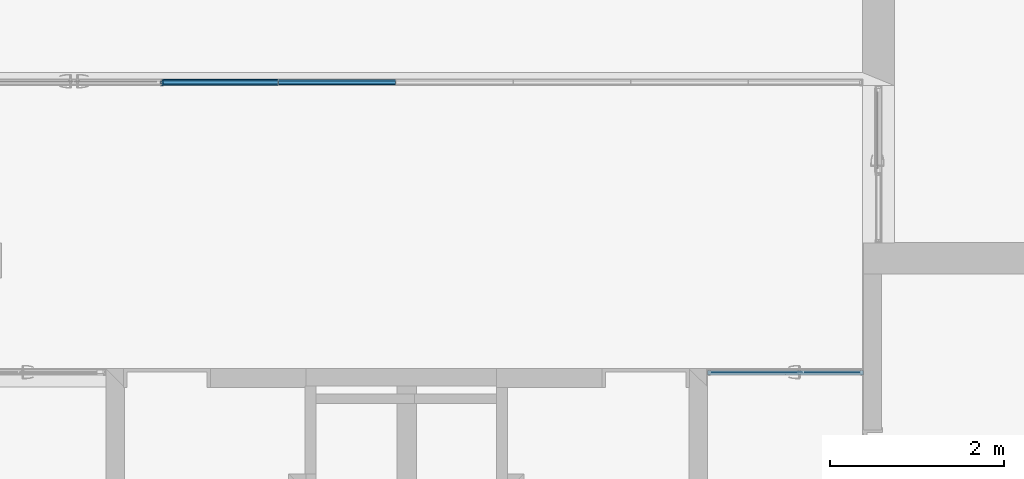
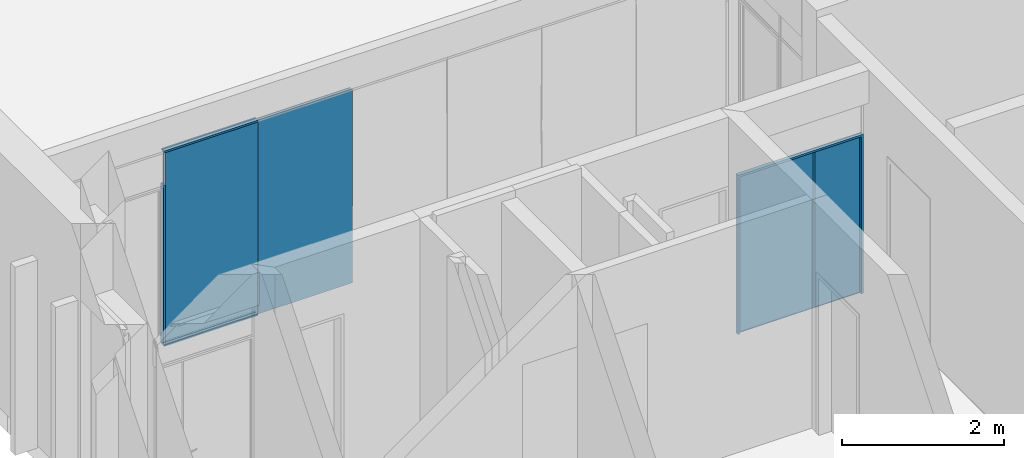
# One storey, part 60 of 89: 11 building element parts, 8 elements without a shape of their own.
"""IFC2X3 building model written with IfcOpenShell, lengths in millimetres."""

from ifc_helpers import new_model, entity, si_unit, converted_unit, derived_unit, money_unit, direction, frame, origin_with_axes, place, context, subcontext, project, spatial, faceted_brep, material, type_object, element, aggregate, save


model = new_model("IFC2X3")

# Units and contexts
model_context = context("Model", 3, precision=0.01, world=origin_with_axes(), true_north=direction((0.0, 1.0)))
body_context = subcontext(model_context, "Body", "Model", "MODEL_VIEW")
ifc_project = project(units=[si_unit("LENGTHUNIT", "METRE", prefix="MILLI"), si_unit("AREAUNIT", "SQUARE_METRE"), si_unit("VOLUMEUNIT", "CUBIC_METRE"), converted_unit("PLANEANGLEUNIT", "DEGREE", entity("IfcPlaneAngleMeasure", 0.0174532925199), si_unit("PLANEANGLEUNIT", "RADIAN"), dimensions=[0, 0, 0, 0, 0, 0, 0]), si_unit("SOLIDANGLEUNIT", "STERADIAN"), money_unit("EUR"), converted_unit("TIMEUNIT", "Year", entity("IfcTimeMeasure", 31556926.0), si_unit("TIMEUNIT", "SECOND"), dimensions=[0, 0, 1, 0, 0, 0, 0]), si_unit("MASSUNIT", "GRAM", prefix="KILO"), si_unit("THERMODYNAMICTEMPERATUREUNIT", "DEGREE_CELSIUS"), si_unit("LUMINOUSINTENSITYUNIT", "LUMEN"), si_unit("ENERGYUNIT", "JOULE", prefix="MEGA"), derived_unit("THERMALCONDUCTANCEUNIT", [(si_unit("POWERUNIT", "WATT"), 1), (si_unit("LENGTHUNIT", "METRE"), -1), (si_unit("THERMODYNAMICTEMPERATUREUNIT", "KELVIN"), -1)]), derived_unit("SPECIFICHEATCAPACITYUNIT", [(si_unit("ENERGYUNIT", "JOULE"), 1), (si_unit("MASSUNIT", "GRAM", prefix="KILO"), -1), (si_unit("THERMODYNAMICTEMPERATUREUNIT", "KELVIN"), -1)]), derived_unit("MASSDENSITYUNIT", [(si_unit("MASSUNIT", "GRAM", prefix="KILO"), 1), (si_unit("VOLUMEUNIT", "CUBIC_METRE"), -1)])], contexts=[model_context])

# Site, building, storey
site_placement = place(None, origin_with_axes())
site = spatial("IfcSite", under=ifc_project, at=site_placement, Name="Puškini 31, Narva", CompositionType="ELEMENT")
building_placement = place(site_placement, origin_with_axes())
building = spatial("IfcBuilding", under=site, at=building_placement, Name="Narva Riigigümnaasium", CompositionType="ELEMENT")
storey_placement = place(building_placement, frame((0.0, 0.0, -3300.0), z_axis=(0.0, 0.0, 1.0), x_axis=(1.0, 0.0, 0.0)))
storey = spatial("IfcBuildingStorey", under=building, at=storey_placement, Name="1.korrus -3.3", CompositionType="ELEMENT", Elevation=-3300.0)

# Curtain wall, plates, building element parts, members
curtain_wall_type = type_object("IfcCurtainWallType", Name="Curtain Wall Type", PredefinedType="NOTDEFINED")
curtain_wall_1_placement = place(storey_placement, frame((40014.000008, 243997.000057, -9.155864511e-06), z_axis=(0.0, 0.0, 1.0), x_axis=(1.0, 0.0, 0.0)))
curtain_wall_1 = element("IfcCurtainWall", 1, at=curtain_wall_1_placement, inside=storey, type_object=curtain_wall_type, Name="G-SKLF-09")
plate_type_1 = type_object("IfcPlateType", Name="Siseklaasfassaad - Klaas 1318 x 505 x 10", PredefinedType="CURTAIN_PANEL")
plate_1_placement = place(curtain_wall_1_placement, frame((0.0, 0.0, 1875.71429143), z_axis=(0.0, 0.0, 1.0), x_axis=(-1.0, 0.0, 0.0)))
plate_1 = element("IfcPlate", 2, at=plate_1_placement, type_object=plate_type_1, Name="G-SKLF-09-klaas", ObjectType="CURTAIN_PANEL")
ifc_material_1 = material(Name="VKR-05_Klaas")
building_element_part_1_placement = place(plate_1_placement, origin_with_axes())
building_element_part_1 = element("IfcBuildingElementPart", 3, at=building_element_part_1_placement, material=ifc_material_1, Name="VKR-05_Klaas", context=body_context, shape_type="Brep", body=[
    faceted_brep([(-762.500010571, 29.0, 1059.28572389), (-762.500010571, 20.0, 1059.28572389), (555.999979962, 20.0, 1059.28572389), (555.999979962, 29.0, 1059.28572389), (-762.500010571, 29.0, -1860.71429959), (-762.500010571, 20.0, -1860.71429959), (572.99999416, 20.0, -1860.71429959), (572.99999416, 20.0, 554.285705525), (555.999979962, 20.0, 554.285705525), (555.999979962, 29.0, 554.285705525), (572.99999416, 29.0, 554.285705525), (572.99999416, 29.0, -1860.71429959)], [[[0, 1, 2, 3]], [[4, 5, 1, 0]], [[1, 5, 6, 7, 8, 2]], [[3, 2, 8, 9]], [[0, 3, 9, 10, 11, 4]], [[11, 6, 5, 4]], [[10, 7, 6, 11]], [[9, 8, 7, 10]]]),
    faceted_brep([(-762.500010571, -20.0, 1059.28572389), (-762.500010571, -29.0, 1059.28572389), (555.999979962, -29.0, 1059.28572389), (555.999979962, -20.0, 1059.28572389), (-762.500010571, -20.0, -1860.71429959), (-762.500010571, -29.0, -1860.71429959), (572.99999416, -29.0, -1860.71429959), (572.99999416, -29.0, 554.285705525), (555.999979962, -29.0, 554.285705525), (555.999979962, -20.0, 554.285705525), (572.99999416, -20.0, 554.285705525), (572.99999416, -20.0, -1860.71429959)], [[[0, 1, 2, 3]], [[4, 5, 1, 0]], [[1, 5, 6, 7, 8, 2]], [[3, 2, 8, 9]], [[0, 3, 9, 10, 11, 4]], [[11, 6, 5, 4]], [[10, 7, 6, 11]], [[9, 8, 7, 10]]]),
])
ifc_material_2 = material(Name="VKR-06_Õhkvahe")
building_element_part_2_placement = place(plate_1_placement, origin_with_axes())
building_element_part_2 = element("IfcBuildingElementPart", 4, at=building_element_part_2_placement, material=ifc_material_2, Name="VKR-06_Õhkvahe", context=body_context, shape_type="Brep", body=[
    faceted_brep([(-762.500010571, 20.0, 1059.28572389), (-762.500010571, -20.0, 1059.28572389), (555.999979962, -20.0, 1059.28572389), (555.999979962, 20.0, 1059.28572389), (-762.500010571, 20.0, -1860.71429959), (-762.500010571, -20.0, -1860.71429959), (572.99999416, -20.0, -1860.71429959), (572.99999416, -20.0, 554.285705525), (555.999979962, -20.0, 554.285705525), (555.999979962, 20.0, 554.285705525), (572.99999416, 20.0, 554.285705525), (572.99999416, 20.0, -1860.71429959)], [[[0, 1, 2, 3]], [[4, 5, 1, 0]], [[1, 5, 6, 7, 8, 2]], [[3, 2, 8, 9]], [[0, 3, 9, 10, 11, 4]], [[11, 6, 5, 4]], [[10, 7, 6, 11]], [[9, 8, 7, 10]]]),
])
aggregate(plate_1, [building_element_part_1, building_element_part_2])
plate_type_2 = type_object("IfcPlateType", Name="Siseklaasfassaad - Klaas 1347 x 535 x 10", PredefinedType="CURTAIN_PANEL")
plate_2_placement = place(curtain_wall_1_placement, frame((1438.99999221, 0.0, 1783.33333811), z_axis=(0.0, 0.0, 1.0), x_axis=(-1.0, 0.0, 0.0)))
plate_2 = element("IfcPlate", 5, at=plate_2_placement, type_object=plate_type_2, Name="G-SKLF-09-klaas", ObjectType="CURTAIN_PANEL")
building_element_part_3_placement = place(plate_2_placement, origin_with_axes())
building_element_part_3 = element("IfcBuildingElementPart", 6, at=building_element_part_3_placement, material=ifc_material_1, Name="VKR-05_Klaas", context=body_context, shape_type="Brep", body=[
    faceted_brep([(-673.500018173, 29.0, 1151.66667721), (-673.500018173, 20.0, 1151.66667721), (673.500005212, 20.0, 1151.66667721), (673.500005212, 29.0, 1151.66667721), (-673.500018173, 29.0, -1768.33334626), (-673.500018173, 20.0, -1768.33334626), (673.500005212, 20.0, -1768.33334626), (673.500005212, 29.0, -1768.33334626)], [[[0, 1, 2, 3]], [[4, 5, 1, 0]], [[1, 5, 6, 2]], [[3, 2, 6, 7]], [[0, 3, 7, 4]], [[7, 6, 5, 4]]]),
    faceted_brep([(-673.500018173, -20.0, 1151.66667721), (-673.500018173, -29.0, 1151.66667721), (673.500005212, -29.0, 1151.66667721), (673.500005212, -20.0, 1151.66667721), (-673.500018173, -20.0, -1768.33334626), (-673.500018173, -29.0, -1768.33334626), (673.500005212, -29.0, -1768.33334626), (673.500005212, -20.0, -1768.33334626)], [[[0, 1, 2, 3]], [[4, 5, 1, 0]], [[1, 5, 6, 2]], [[3, 2, 6, 7]], [[0, 3, 7, 4]], [[7, 6, 5, 4]]]),
])
building_element_part_4_placement = place(plate_2_placement, origin_with_axes())
building_element_part_4 = element("IfcBuildingElementPart", 7, at=building_element_part_4_placement, material=ifc_material_2, Name="VKR-06_Õhkvahe", context=body_context, shape_type="Brep", body=[
    faceted_brep([(-673.500018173, 20.0, 1151.66667721), (-673.500018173, -20.0, 1151.66667721), (673.500005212, -20.0, 1151.66667721), (673.500005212, 20.0, 1151.66667721), (-673.500018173, 20.0, -1768.33334626), (-673.500018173, -20.0, -1768.33334626), (673.500005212, -20.0, -1768.33334626), (673.500005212, 20.0, -1768.33334626)], [[[0, 1, 2, 3]], [[4, 5, 1, 0]], [[1, 5, 6, 2]], [[3, 2, 6, 7]], [[0, 3, 7, 4]], [[7, 6, 5, 4]]]),
])
aggregate(plate_2, [building_element_part_3, building_element_part_4])
member_type_1 = type_object("IfcMemberType", Name="30 x -83", PredefinedType="MULLION")
member_1_placement = place(curtain_wall_1_placement, frame((-572.99999416, 0.0, 2950.00000716), z_axis=(1.0, 0.0, 0.0), x_axis=(0.0, 0.0, 1.0)))
member_1 = element("IfcMember", 8, at=member_1_placement, type_object=member_type_1, Name="G-SKLF-52-raam", ObjectType="MULLION")
ifc_material_3 = material(Name="Klaasvill")
building_element_part_5_placement = place(member_1_placement, origin_with_axes())
building_element_part_5 = element("IfcBuildingElementPart", 9, at=building_element_part_5_placement, material=ifc_material_3, Name="Klaasvill", context=body_context, shape_type="Brep", body=[
    faceted_brep([(-7.49999990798, -20.000000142, 0.0), (-13.8499999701, -20.000000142, 0.0), (-13.8499999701, -20.000000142, 1336.99998637), (-7.49999990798, -20.000000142, 1336.99998637), (-7.49999990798, -34.0161444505, 0.0), (-13.8499999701, -34.0161444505, 0.0), (-13.8499999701, -34.0161444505, 1336.99998637), (-7.49999990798, -34.0161444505, 1336.99998637)], [[[0, 1, 2, 3]], [[0, 4, 5, 1]], [[1, 5, 6, 2]], [[3, 2, 6, 7]], [[4, 0, 3, 7]], [[5, 4, 7, 6]]]),
    faceted_brep([(-24.987414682, -34.0161444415, 0.0), (-25.004489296, -32.0307503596, 0.0), (-25.004489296, -32.0307503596, 1336.99998637), (-24.987414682, -34.0161444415, 1336.99998637), (-28.5126239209, -34.0161444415, 0.0), (-28.7655837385, -33.0385325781, 0.0), (-28.4955493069, -32.0307503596, 0.0), (-27.75780152, -31.2930025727, 0.0), (-26.7500193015, -31.0229681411, 0.0), (-25.742237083, -31.2930025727, 0.0), (-25.742237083, -31.2930025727, 1336.99998637), (-26.7500193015, -31.0229681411, 1336.99998637), (-27.75780152, -31.2930025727, 1336.99998637), (-28.4955493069, -32.0307503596, 1336.99998637), (-28.7655837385, -33.0385325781, 1336.99998637), (-28.5126239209, -34.0161444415, 1336.99998637)], [[[0, 1, 2, 3]], [[0, 4, 5, 6, 7, 8, 9, 1]], [[1, 9, 10, 2]], [[3, 2, 10, 11, 12, 13, 14, 15]], [[4, 0, 3, 15]], [[5, 4, 15, 14]], [[6, 5, 14, 13]], [[7, 6, 13, 12]], [[8, 7, 12, 11]], [[9, 8, 11, 10]]]),
    faceted_brep([(-7.49999990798, 19.9999997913, 0.0), (-7.49999990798, 34.0161445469, 0.0), (-7.49999990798, 34.0161445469, 1336.99998637), (-7.49999990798, 19.9999997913, 1336.99998637), (-13.8499999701, 19.9999997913, 0.0), (-13.8499999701, 34.0161445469, 0.0), (-13.8499999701, 34.0161445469, 1336.99998637), (-13.8499999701, 19.9999997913, 1336.99998637)], [[[0, 1, 2, 3]], [[0, 4, 5, 1]], [[1, 5, 6, 2]], [[3, 2, 6, 7]], [[4, 0, 3, 7]], [[5, 4, 7, 6]]]),
    faceted_brep([(-25.004489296, 32.0307503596, 0.0), (-24.987414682, 34.0161444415, 0.0), (-24.987414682, 34.0161444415, 1336.99998637), (-25.004489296, 32.0307503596, 1336.99998637), (-25.742237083, 31.2930025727, 0.0), (-26.7500193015, 31.0229681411, 0.0), (-27.75780152, 31.2930025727, 0.0), (-28.4955493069, 32.0307503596, 0.0), (-28.7655837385, 33.0385325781, 0.0), (-28.5126239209, 34.0161444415, 0.0), (-28.5126239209, 34.0161444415, 1336.99998637), (-28.7655837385, 33.0385325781, 1336.99998637), (-28.4955493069, 32.0307503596, 1336.99998637), (-27.75780152, 31.2930025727, 1336.99998637), (-26.7500193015, 31.0229681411, 1336.99998637), (-25.742237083, 31.2930025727, 1336.99998637)], [[[0, 1, 2, 3]], [[0, 4, 5, 6, 7, 8, 9, 1]], [[1, 9, 10, 2]], [[3, 2, 10, 11, 12, 13, 14, 15]], [[4, 0, 3, 15]], [[5, 4, 15, 14]], [[6, 5, 14, 13]], [[7, 6, 13, 12]], [[8, 7, 12, 11]], [[9, 8, 11, 10]]]),
])
ifc_material_4 = material(Name="Teras RAL7012")
building_element_part_6_placement = place(member_1_placement, origin_with_axes())
building_element_part_6 = element("IfcBuildingElementPart", 10, at=building_element_part_6_placement, material=ifc_material_4, Name="Teras RAL7012", context=body_context, shape_type="Brep", body=[
    faceted_brep([(0.0, 17.0000000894, 0.0), (-29.5999996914, 17.0000000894, 0.0), (-29.5999996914, 17.0000000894, 1336.99998637), (0.0, 17.0000000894, 1336.99998637), (0.0, -17.0000000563, 0.0), (-29.5999996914, -17.0000000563, 0.0), (-1.9999999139, -15.0000001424, 0.0), (-1.9999999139, 15.0000001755, 0.0), (-18.7999996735, 15.0000001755, 0.0), (-18.7999996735, -15.0000001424, 0.0), (-29.5999996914, -17.0000000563, 1336.99998637), (0.0, -17.0000000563, 1336.99998637), (-1.9999999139, -15.0000001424, 1336.99998637), (-18.7999996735, -15.0000001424, 1336.99998637), (-18.7999996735, 15.0000001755, 1336.99998637), (-1.9999999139, 15.0000001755, 1336.99998637)], [[[0, 1, 2, 3]], [[0, 4, 5, 1], [6, 7, 8, 9]], [[1, 5, 10, 2]], [[3, 2, 10, 11], [12, 13, 14, 15]], [[4, 0, 3, 11]], [[5, 4, 11, 10]], [[7, 6, 12, 15]], [[8, 7, 15, 14]], [[9, 8, 14, 13]], [[6, 9, 13, 12]]]),
    faceted_brep([(0.0, -17.0, 0.0), (-29.5999996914, -17.0000000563, 0.0), (-29.5999996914, -17.0000000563, 1336.99998637), (0.0, -17.0, 1336.99998637), (0.0, -37.0, 0.0), (-30.0000193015, -37.0, 0.0), (-30.0000193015, -34.0161444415, 0.0), (-28.5126239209, -34.0161444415, 0.0), (-24.987414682, -34.0161444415, 0.0), (-13.8499999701, -34.0161444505, 0.0), (-7.49999999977, -34.0161444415, 0.0), (-7.49999999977, -20.0, 0.0), (-13.8499999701, -20.000000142, 0.0), (-30.0000193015, -20.0, 0.0), (-30.0000193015, -17.0, 0.0), (-30.0000193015, -17.0, 1336.99998637), (-30.0000193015, -20.0, 1336.99998637), (-13.8499999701, -20.000000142, 1336.99998637), (-7.49999999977, -20.0, 1336.99998637), (-7.49999999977, -34.0161444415, 1336.99998637), (-13.8499999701, -34.0161444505, 1336.99998637), (-24.987414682, -34.0161444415, 1336.99998637), (-28.5126239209, -34.0161444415, 1336.99998637), (-30.0000193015, -34.0161444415, 1336.99998637), (-30.0000193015, -37.0, 1336.99998637), (0.0, -37.0, 1336.99998637)], [[[0, 1, 2, 3]], [[0, 4, 5, 6, 7, 8, 9, 10, 11, 12, 13, 14, 1]], [[1, 14, 15, 2]], [[3, 2, 15, 16, 17, 18, 19, 20, 21, 22, 23, 24, 25]], [[4, 0, 3, 25]], [[5, 4, 25, 24]], [[6, 5, 24, 23]], [[7, 6, 23, 22]], [[8, 7, 22, 21]], [[9, 8, 21, 20]], [[10, 9, 20, 19]], [[11, 10, 19, 18]], [[12, 11, 18, 17]], [[13, 12, 17, 16]], [[14, 13, 16, 15]]]),
    faceted_brep([(0.0, 17.0, 0.0), (0.0, 37.0, 0.0), (0.0, 37.0, 1336.99998637), (0.0, 17.0, 1336.99998637), (-29.5999996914, 17.0000000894, 0.0), (-30.0000193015, 17.0, 0.0), (-30.0000193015, 20.0, 0.0), (-13.8499999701, 19.9999997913, 0.0), (-7.49999999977, 20.0, 0.0), (-7.49999999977, 34.0161444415, 0.0), (-13.8499999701, 34.0161445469, 0.0), (-24.987414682, 34.0161444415, 0.0), (-28.5126239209, 34.0161444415, 0.0), (-30.0000193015, 34.0161444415, 0.0), (-30.0000193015, 37.0, 0.0), (-30.0000193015, 37.0, 1336.99998637), (-30.0000193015, 34.0161444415, 1336.99998637), (-28.5126239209, 34.0161444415, 1336.99998637), (-24.987414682, 34.0161444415, 1336.99998637), (-13.8499999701, 34.0161445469, 1336.99998637), (-7.49999999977, 34.0161444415, 1336.99998637), (-7.49999999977, 20.0, 1336.99998637), (-13.8499999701, 19.9999997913, 1336.99998637), (-30.0000193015, 20.0, 1336.99998637), (-30.0000193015, 17.0, 1336.99998637), (-29.5999996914, 17.0000000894, 1336.99998637)], [[[0, 1, 2, 3]], [[0, 4, 5, 6, 7, 8, 9, 10, 11, 12, 13, 14, 1]], [[1, 14, 15, 2]], [[3, 2, 15, 16, 17, 18, 19, 20, 21, 22, 23, 24, 25]], [[4, 0, 3, 25]], [[5, 4, 25, 24]], [[6, 5, 24, 23]], [[7, 6, 23, 22]], [[8, 7, 22, 21]], [[9, 8, 21, 20]], [[10, 9, 20, 19]], [[11, 10, 19, 18]], [[12, 11, 18, 17]], [[13, 12, 17, 16]], [[14, 13, 16, 15]]]),
])
aggregate(member_1, [building_element_part_5, building_element_part_6])
member_2_placement = place(curtain_wall_1_placement, frame((-572.99999416, 0.0, 0.0), z_axis=(1.0, 0.0, 0.0), x_axis=(0.0, 0.0, 1.0)))
member_2 = element("IfcMember", 11, at=member_2_placement, type_object=member_type_1, Name="G-SKLF-39-raam", ObjectType="MULLION")
building_element_part_7_placement = place(member_2_placement, origin_with_axes())
building_element_part_7 = element("IfcBuildingElementPart", 12, at=building_element_part_7_placement, material=ifc_material_3, Name="Klaasvill", context=body_context, shape_type="Brep", body=[
    faceted_brep([(7.49999990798, -20.000000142, 0.0), (7.49999990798, -20.000000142, 1336.99998637), (13.8499999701, -20.000000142, 1336.99998637), (13.8499999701, -20.000000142, 0.0), (7.49999990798, -34.0161444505, 0.0), (7.49999990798, -34.0161444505, 1336.99998637), (13.8499999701, -34.0161444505, 1336.99998637), (13.8499999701, -34.0161444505, 0.0)], [[[0, 1, 2, 3]], [[4, 5, 1, 0]], [[1, 5, 6, 2]], [[3, 2, 6, 7]], [[0, 3, 7, 4]], [[7, 6, 5, 4]]]),
    faceted_brep([(24.987414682, -34.0161444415, 0.0), (24.987414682, -34.0161444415, 1336.99998637), (25.004489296, -32.0307503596, 1336.99998637), (25.004489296, -32.0307503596, 0.0), (28.5126239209, -34.0161444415, 0.0), (28.5126239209, -34.0161444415, 1336.99998637), (28.7655837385, -33.0385325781, 1336.99998637), (28.4955493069, -32.0307503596, 1336.99998637), (27.75780152, -31.2930025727, 1336.99998637), (26.7500193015, -31.0229681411, 1336.99998637), (25.742237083, -31.2930025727, 1336.99998637), (25.742237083, -31.2930025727, 0.0), (26.7500193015, -31.0229681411, 0.0), (27.75780152, -31.2930025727, 0.0), (28.4955493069, -32.0307503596, 0.0), (28.7655837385, -33.0385325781, 0.0)], [[[0, 1, 2, 3]], [[4, 5, 1, 0]], [[1, 5, 6, 7, 8, 9, 10, 2]], [[3, 2, 10, 11]], [[0, 3, 11, 12, 13, 14, 15, 4]], [[15, 6, 5, 4]], [[14, 7, 6, 15]], [[13, 8, 7, 14]], [[12, 9, 8, 13]], [[11, 10, 9, 12]]]),
    faceted_brep([(7.49999990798, 19.9999997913, 0.0), (7.49999990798, 19.9999997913, 1336.99998637), (7.49999990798, 34.0161445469, 1336.99998637), (7.49999990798, 34.0161445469, 0.0), (13.8499999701, 19.9999997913, 0.0), (13.8499999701, 19.9999997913, 1336.99998637), (13.8499999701, 34.0161445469, 1336.99998637), (13.8499999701, 34.0161445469, 0.0)], [[[0, 1, 2, 3]], [[4, 5, 1, 0]], [[1, 5, 6, 2]], [[3, 2, 6, 7]], [[0, 3, 7, 4]], [[7, 6, 5, 4]]]),
    faceted_brep([(25.004489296, 32.0307503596, 0.0), (25.004489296, 32.0307503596, 1336.99998637), (24.987414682, 34.0161444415, 1336.99998637), (24.987414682, 34.0161444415, 0.0), (25.742237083, 31.2930025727, 0.0), (25.742237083, 31.2930025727, 1336.99998637), (26.7500193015, 31.0229681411, 1336.99998637), (27.75780152, 31.2930025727, 1336.99998637), (28.4955493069, 32.0307503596, 1336.99998637), (28.7655837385, 33.0385325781, 1336.99998637), (28.5126239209, 34.0161444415, 1336.99998637), (28.5126239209, 34.0161444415, 0.0), (28.7655837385, 33.0385325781, 0.0), (28.4955493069, 32.0307503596, 0.0), (27.75780152, 31.2930025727, 0.0), (26.7500193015, 31.0229681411, 0.0)], [[[0, 1, 2, 3]], [[4, 5, 1, 0]], [[1, 5, 6, 7, 8, 9, 10, 2]], [[3, 2, 10, 11]], [[0, 3, 11, 12, 13, 14, 15, 4]], [[15, 6, 5, 4]], [[14, 7, 6, 15]], [[13, 8, 7, 14]], [[12, 9, 8, 13]], [[11, 10, 9, 12]]]),
])
building_element_part_8_placement = place(member_2_placement, origin_with_axes())
building_element_part_8 = element("IfcBuildingElementPart", 13, at=building_element_part_8_placement, material=ifc_material_4, Name="Teras RAL7012", context=body_context, shape_type="Brep", body=[
    faceted_brep([(0.0, 17.0000000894, 0.0), (0.0, 17.0000000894, 1336.99998637), (29.5999996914, 17.0000000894, 1336.99998637), (29.5999996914, 17.0000000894, 0.0), (0.0, -17.0000000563, 0.0), (0.0, -17.0000000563, 1336.99998637), (29.5999996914, -17.0000000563, 1336.99998637), (1.9999999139, -15.0000001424, 1336.99998637), (1.9999999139, 15.0000001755, 1336.99998637), (18.7999996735, 15.0000001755, 1336.99998637), (18.7999996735, -15.0000001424, 1336.99998637), (29.5999996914, -17.0000000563, 0.0), (1.9999999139, -15.0000001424, 0.0), (18.7999996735, -15.0000001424, 0.0), (18.7999996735, 15.0000001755, 0.0), (1.9999999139, 15.0000001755, 0.0)], [[[0, 1, 2, 3]], [[4, 5, 1, 0]], [[1, 5, 6, 2], [7, 8, 9, 10]], [[3, 2, 6, 11]], [[0, 3, 11, 4], [12, 13, 14, 15]], [[11, 6, 5, 4]], [[15, 8, 7, 12]], [[14, 9, 8, 15]], [[13, 10, 9, 14]], [[12, 7, 10, 13]]]),
    faceted_brep([(0.0, -17.0, 0.0), (0.0, -17.0, 1336.99998637), (29.5999996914, -17.0000000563, 1336.99998637), (29.5999996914, -17.0000000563, 0.0), (0.0, -37.0, 0.0), (0.0, -37.0, 1336.99998637), (30.0000193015, -37.0, 1336.99998637), (30.0000193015, -34.0161444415, 1336.99998637), (28.5126239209, -34.0161444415, 1336.99998637), (24.987414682, -34.0161444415, 1336.99998637), (13.8499999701, -34.0161444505, 1336.99998637), (7.49999999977, -34.0161444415, 1336.99998637), (7.49999999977, -20.0, 1336.99998637), (13.8499999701, -20.000000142, 1336.99998637), (30.0000193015, -20.0, 1336.99998637), (30.0000193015, -17.0, 1336.99998637), (30.0000193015, -17.0, 0.0), (30.0000193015, -20.0, 0.0), (13.8499999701, -20.000000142, 0.0), (7.49999999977, -20.0, 0.0), (7.49999999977, -34.0161444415, 0.0), (13.8499999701, -34.0161444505, 0.0), (24.987414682, -34.0161444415, 0.0), (28.5126239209, -34.0161444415, 0.0), (30.0000193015, -34.0161444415, 0.0), (30.0000193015, -37.0, 0.0)], [[[0, 1, 2, 3]], [[4, 5, 1, 0]], [[1, 5, 6, 7, 8, 9, 10, 11, 12, 13, 14, 15, 2]], [[3, 2, 15, 16]], [[0, 3, 16, 17, 18, 19, 20, 21, 22, 23, 24, 25, 4]], [[25, 6, 5, 4]], [[24, 7, 6, 25]], [[23, 8, 7, 24]], [[22, 9, 8, 23]], [[21, 10, 9, 22]], [[20, 11, 10, 21]], [[19, 12, 11, 20]], [[18, 13, 12, 19]], [[17, 14, 13, 18]], [[16, 15, 14, 17]]]),
    faceted_brep([(0.0, 17.0, 0.0), (0.0, 17.0, 1336.99998637), (0.0, 37.0, 1336.99998637), (0.0, 37.0, 0.0), (29.5999996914, 17.0000000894, 0.0), (29.5999996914, 17.0000000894, 1336.99998637), (30.0000193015, 17.0, 1336.99998637), (30.0000193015, 20.0, 1336.99998637), (13.8499999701, 19.9999997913, 1336.99998637), (7.49999999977, 20.0, 1336.99998637), (7.49999999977, 34.0161444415, 1336.99998637), (13.8499999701, 34.0161445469, 1336.99998637), (24.987414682, 34.0161444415, 1336.99998637), (28.5126239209, 34.0161444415, 1336.99998637), (30.0000193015, 34.0161444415, 1336.99998637), (30.0000193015, 37.0, 1336.99998637), (30.0000193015, 37.0, 0.0), (30.0000193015, 34.0161444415, 0.0), (28.5126239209, 34.0161444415, 0.0), (24.987414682, 34.0161444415, 0.0), (13.8499999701, 34.0161445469, 0.0), (7.49999999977, 34.0161444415, 0.0), (7.49999999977, 20.0, 0.0), (13.8499999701, 19.9999997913, 0.0), (30.0000193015, 20.0, 0.0), (30.0000193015, 17.0, 0.0)], [[[0, 1, 2, 3]], [[4, 5, 1, 0]], [[1, 5, 6, 7, 8, 9, 10, 11, 12, 13, 14, 15, 2]], [[3, 2, 15, 16]], [[0, 3, 16, 17, 18, 19, 20, 21, 22, 23, 24, 25, 4]], [[25, 6, 5, 4]], [[24, 7, 6, 25]], [[23, 8, 7, 24]], [[22, 9, 8, 23]], [[21, 10, 9, 22]], [[20, 11, 10, 21]], [[19, 12, 11, 20]], [[18, 13, 12, 19]], [[17, 14, 13, 18]], [[16, 15, 14, 17]]]),
])
aggregate(member_2, [building_element_part_7, building_element_part_8])
member_type_2 = type_object("IfcMemberType", Name="30 x 37", PredefinedType="MULLION")
member_3_placement = place(curtain_wall_1_placement, frame((-586.000007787, 0.0, 0.0), z_axis=(0.0, 0.0, 1.0), x_axis=(-1.0, 0.0, 0.0)))
member_3 = element("IfcMember", 14, at=member_3_placement, type_object=member_type_2, Name="G-SKLF-09-raam", ObjectType="MULLION")
aggregate(curtain_wall_1, [member_1, member_2, member_3, plate_1, plate_2])
building_element_part_9_placement = place(member_3_placement, origin_with_axes())
building_element_part_9 = element("IfcBuildingElementPart", 15, at=building_element_part_9_placement, material=ifc_material_4, Name="Teras RAL7012", context=body_context, shape_type="Brep", body=[
    faceted_brep([(-29.6000001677, 17.0000000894, 20.0), (-29.6000001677, -17.0000000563, 20.0), (-29.6000001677, -17.0000000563, 2430.00002646), (-29.6000001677, 17.0000000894, 2430.00002646), (3.28334692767e-07, 17.0000000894, 20.0), (3.28334692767e-07, -17.0000000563, 20.0), (-1.99999958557, 15.0000001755, 20.0), (-18.8000001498, 15.0000001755, 20.0), (-18.8000001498, -15.0000001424, 20.0), (-1.99999958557, -15.0000001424, 20.0), (3.28334692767e-07, -17.0000000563, 2430.00002646), (3.28334692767e-07, 17.0000000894, 2430.00002646), (-1.99999958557, 15.0000001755, 2430.00002646), (-1.99999958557, -15.0000001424, 2430.00002646), (-18.8000001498, -15.0000001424, 2430.00002646), (-18.8000001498, 15.0000001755, 2430.00002646)], [[[0, 1, 2, 3]], [[1, 0, 4, 5], [6, 7, 8, 9]], [[1, 5, 10, 2]], [[2, 10, 11, 3], [12, 13, 14, 15]], [[4, 0, 3, 11]], [[5, 4, 11, 10]], [[7, 6, 12, 15]], [[8, 7, 15, 14]], [[9, 8, 14, 13]], [[6, 9, 13, 12]]]),
    faceted_brep([(0.0, -37.0, 20.0), (0.0, -17.0, 20.0), (0.0, -17.0, 2430.00002646), (0.0, -37.0, 2430.00002646), (-30.0000193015, -37.0, 20.0), (-30.0000193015, -34.0161444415, 20.0), (-28.5126239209, -34.0161444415, 20.0), (-24.987414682, -34.0161444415, 20.0), (-13.8499999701, -34.0161444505, 20.0), (-7.49999999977, -34.0161444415, 20.0), (-7.49999999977, -20.0, 20.0), (-13.8499999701, -20.000000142, 20.0), (-30.0000193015, -20.0, 20.0), (-30.0000193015, -17.0, 20.0), (-29.6000001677, -17.0000000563, 20.0), (-29.6000001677, -17.0000000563, 2430.00002646), (-30.0000193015, -17.0, 2430.00002646), (-30.0000193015, -20.0, 2430.00002646), (-13.8499999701, -20.000000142, 2430.00002646), (-7.49999999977, -20.0, 2430.00002646), (-7.49999999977, -34.0161444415, 2430.00002646), (-13.8499999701, -34.0161444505, 2430.00002646), (-24.987414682, -34.0161444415, 2430.00002646), (-28.5126239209, -34.0161444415, 2430.00002646), (-30.0000193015, -34.0161444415, 2430.00002646), (-30.0000193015, -37.0, 2430.00002646)], [[[0, 1, 2, 3]], [[1, 0, 4, 5, 6, 7, 8, 9, 10, 11, 12, 13, 14]], [[1, 14, 15, 2]], [[2, 15, 16, 17, 18, 19, 20, 21, 22, 23, 24, 25, 3]], [[4, 0, 3, 25]], [[5, 4, 25, 24]], [[6, 5, 24, 23]], [[7, 6, 23, 22]], [[8, 7, 22, 21]], [[9, 8, 21, 20]], [[10, 9, 20, 19]], [[11, 10, 19, 18]], [[12, 11, 18, 17]], [[13, 12, 17, 16]], [[14, 13, 16, 15]]]),
    faceted_brep([(-29.6000001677, 17.0000000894, 20.0), (0.0, 17.0, 20.0), (0.0, 17.0, 2430.00002646), (-29.6000001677, 17.0000000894, 2430.00002646), (-30.0000193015, 17.0, 20.0), (-30.0000193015, 20.0, 20.0), (-13.8499999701, 19.9999997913, 20.0), (-7.49999999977, 20.0, 20.0), (-7.49999999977, 34.0161444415, 20.0), (-13.8499999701, 34.0161445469, 20.0), (-24.987414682, 34.0161444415, 20.0), (-28.5126239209, 34.0161444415, 20.0), (-30.0000193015, 34.0161444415, 20.0), (-30.0000193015, 37.0, 20.0), (0.0, 37.0, 20.0), (0.0, 37.0, 2430.00002646), (-30.0000193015, 37.0, 2430.00002646), (-30.0000193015, 34.0161444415, 2430.00002646), (-28.5126239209, 34.0161444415, 2430.00002646), (-24.987414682, 34.0161444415, 2430.00002646), (-13.8499999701, 34.0161445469, 2430.00002646), (-7.49999999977, 34.0161444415, 2430.00002646), (-7.49999999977, 20.0, 2430.00002646), (-13.8499999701, 19.9999997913, 2430.00002646), (-30.0000193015, 20.0, 2430.00002646), (-30.0000193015, 17.0, 2430.00002646)], [[[0, 1, 2, 3]], [[1, 0, 4, 5, 6, 7, 8, 9, 10, 11, 12, 13, 14]], [[1, 14, 15, 2]], [[2, 15, 16, 17, 18, 19, 20, 21, 22, 23, 24, 25, 3]], [[4, 0, 3, 25]], [[5, 4, 25, 24]], [[6, 5, 24, 23]], [[7, 6, 23, 22]], [[8, 7, 22, 21]], [[9, 8, 21, 20]], [[10, 9, 20, 19]], [[11, 10, 19, 18]], [[12, 11, 18, 17]], [[13, 12, 17, 16]], [[14, 13, 16, 15]]]),
])
aggregate(member_3, [building_element_part_9])

# Curtain wall, door, building element parts
curtain_wall_2_placement = place(storey_placement, frame((46605.0000001, 240678.000001, 0.0), z_axis=(0.0, 0.0, 1.0), x_axis=(1.0, 0.0, 0.0)))
curtain_wall_2 = element("IfcCurtainWall", 16, at=curtain_wall_2_placement, inside=storey, type_object=curtain_wall_type, Name="G-SKLF-57")
door_style = type_object("IfcDoorStyle", Name="895 x 2385 x -5", ConstructionType="NOTDEFINED", OperationType="NOTDEFINED", ParameterTakesPrecedence=False, Sizeable=False)
door_placement = place(curtain_wall_2_placement, frame((0.0, 0.0, 1200.0), z_axis=(0.0, 0.0, 1.0), x_axis=(1.0, 0.0, 0.0)))
door = element("IfcDoor", 17, at=door_placement, type_object=door_style, Name="G-SKLF-58-U1", ObjectType="DOOR")
aggregate(curtain_wall_2, [door])
ifc_material_5 = material(Name="ET-04_Alumiinium")
building_element_part_10_placement = place(door_placement, origin_with_axes())
building_element_part_10 = element("IfcBuildingElementPart", 18, at=building_element_part_10_placement, material=ifc_material_5, Name="ET-04_Alumiinium", context=body_context, shape_type="Brep", body=[
    faceted_brep([(-895.0, -2.5, -1200.0), (-895.0, -2.5, 1200.0), (-895.0, 11.5, 1200.0), (-895.0, 11.5, -1200.0), (-857.0, -2.5, -1200.0), (-857.0, -2.5, 1162.0), (-857.0, 11.5, 1162.0), (-857.0, 11.5, -1200.0)], [[[0, 1, 2, 3]], [[0, 4, 5, 1]], [[1, 5, 6, 2]], [[3, 2, 6, 7]], [[4, 0, 3, 7]], [[5, 4, 7, 6]]]),
    faceted_brep([(895.0, -2.5, 1200.0), (857.0, -2.5, 1162.0), (857.0, 11.5, 1162.0), (895.0, 11.5, 1200.0), (-895.0, -2.5, 1200.0), (-857.0, -2.5, 1162.0), (-857.0, 11.5, 1162.0), (-895.0, 11.5, 1200.0)], [[[0, 1, 2, 3]], [[0, 4, 5, 1]], [[1, 5, 6, 2]], [[3, 2, 6, 7]], [[4, 0, 3, 7]], [[5, 4, 7, 6]]]),
    faceted_brep([(895.0, -2.5, -1200.0), (857.0, -2.5, -1200.0), (857.0, 11.5, -1200.0), (895.0, 11.5, -1200.0), (895.0, -2.5, 1200.0), (857.0, -2.5, 1162.0), (857.0, 11.5, 1162.0), (895.0, 11.5, 1200.0)], [[[0, 1, 2, 3]], [[0, 4, 5, 1]], [[1, 5, 6, 2]], [[3, 2, 6, 7]], [[4, 0, 3, 7]], [[5, 4, 7, 6]]]),
    faceted_brep([(-895.0, -42.5, -1200.0), (-895.0, -42.5, 1200.0), (-895.0, -2.5, 1200.0), (-895.0, -2.5, -1200.0), (-865.0, -42.5, -1200.0), (-865.0, -42.5, 1170.0), (-865.0, -2.5, 1170.0), (-865.0, -2.5, -1200.0)], [[[0, 1, 2, 3]], [[0, 4, 5, 1]], [[1, 5, 6, 2]], [[3, 2, 6, 7]], [[4, 0, 3, 7]], [[5, 4, 7, 6]]]),
    faceted_brep([(895.0, -42.5, 1200.0), (865.0, -42.5, 1170.0), (865.0, -2.5, 1170.0), (895.0, -2.5, 1200.0), (-895.0, -42.5, 1200.0), (-865.0, -42.5, 1170.0), (-865.0, -2.5, 1170.0), (-895.0, -2.5, 1200.0)], [[[0, 1, 2, 3]], [[0, 4, 5, 1]], [[1, 5, 6, 2]], [[3, 2, 6, 7]], [[4, 0, 3, 7]], [[5, 4, 7, 6]]]),
    faceted_brep([(895.0, -42.5, -1200.0), (865.0, -42.5, -1200.0), (865.0, -2.5, -1200.0), (895.0, -2.5, -1200.0), (895.0, -42.5, 1200.0), (865.0, -42.5, 1170.0), (865.0, -2.5, 1170.0), (895.0, -2.5, 1200.0)], [[[0, 1, 2, 3]], [[0, 4, 5, 1]], [[1, 5, 6, 2]], [[3, 2, 6, 7]], [[4, 0, 3, 7]], [[5, 4, 7, 6]]]),
    faceted_brep([(-895.0, -2.5, 1200.0), (895.0, -2.5, 1200.0), (895.0, 2.5, 1200.0), (-895.0, 2.5, 1200.0), (-895.0, -2.5, 1185.0), (895.0, -2.5, 1185.0), (895.0, 2.5, 1185.0), (-895.0, 2.5, 1185.0)], [[[0, 1, 2, 3]], [[0, 4, 5, 1]], [[1, 5, 6, 2]], [[3, 2, 6, 7]], [[4, 0, 3, 7]], [[5, 4, 7, 6]]]),
    faceted_brep([(853.0, -2.5, -1188.0), (853.0, -14.5, -1188.0), (853.0, -14.5, 1158.0), (853.0, -2.5, 1158.0), (865.0, -2.5, -1200.0), (865.0, -14.5, -1200.0), (865.0, -14.5, 1170.0), (865.0, -2.5, 1170.0)], [[[0, 1, 2, 3]], [[4, 5, 1, 0]], [[1, 5, 6, 2]], [[3, 2, 6, 7]], [[0, 3, 7, 4]], [[7, 6, 5, 4]]]),
    faceted_brep([(205.0, -2.5, -1200.0), (205.0, -14.5, -1200.0), (205.0, -14.5, 1170.0), (205.0, -2.5, 1170.0), (217.0, -2.5, -1188.0), (217.0, -14.5, -1188.0), (217.0, -14.5, 1158.0), (217.0, -2.5, 1158.0)], [[[0, 1, 2, 3]], [[4, 5, 1, 0]], [[1, 5, 6, 2]], [[3, 2, 6, 7]], [[0, 3, 7, 4]], [[7, 6, 5, 4]]]),
    faceted_brep([(205.0, -2.5, -1200.0), (205.0, -14.5, -1200.0), (217.0, -14.5, -1188.0), (217.0, -2.5, -1188.0), (865.0, -2.5, -1200.0), (865.0, -14.5, -1200.0), (853.0, -14.5, -1188.0), (853.0, -2.5, -1188.0)], [[[0, 1, 2, 3]], [[4, 5, 1, 0]], [[1, 5, 6, 2]], [[3, 2, 6, 7]], [[0, 3, 7, 4]], [[7, 6, 5, 4]]]),
    faceted_brep([(865.0, -2.5, 1170.0), (865.0, -14.5, 1170.0), (853.0, -14.5, 1158.0), (853.0, -2.5, 1158.0), (205.0, -2.5, 1170.0), (205.0, -14.5, 1170.0), (217.0, -14.5, 1158.0), (217.0, -2.5, 1158.0)], [[[0, 1, 2, 3]], [[4, 5, 1, 0]], [[1, 5, 6, 2]], [[3, 2, 6, 7]], [[0, 3, 7, 4]], [[7, 6, 5, 4]]]),
    faceted_brep([(193.0, -2.5, -1188.0), (193.0, -14.5, -1188.0), (193.0, -14.5, 1158.0), (193.0, -2.5, 1158.0), (205.0, -2.5, -1200.0), (205.0, -14.5, -1200.0), (205.0, -14.5, 1170.0), (205.0, -2.5, 1170.0)], [[[0, 1, 2, 3]], [[4, 5, 1, 0]], [[1, 5, 6, 2]], [[3, 2, 6, 7]], [[0, 3, 7, 4]], [[7, 6, 5, 4]]]),
    faceted_brep([(-865.0, -2.5, -1200.0), (-865.0, -14.5, -1200.0), (-865.0, -14.5, 1170.0), (-865.0, -2.5, 1170.0), (-853.0, -2.5, -1188.0), (-853.0, -14.5, -1188.0), (-853.0, -14.5, 1158.0), (-853.0, -2.5, 1158.0)], [[[0, 1, 2, 3]], [[4, 5, 1, 0]], [[1, 5, 6, 2]], [[3, 2, 6, 7]], [[0, 3, 7, 4]], [[7, 6, 5, 4]]]),
    faceted_brep([(-865.0, -2.5, -1200.0), (-865.0, -14.5, -1200.0), (-853.0, -14.5, -1188.0), (-853.0, -2.5, -1188.0), (205.0, -2.5, -1200.0), (205.0, -14.5, -1200.0), (193.0, -14.5, -1188.0), (193.0, -2.5, -1188.0)], [[[0, 1, 2, 3]], [[4, 5, 1, 0]], [[1, 5, 6, 2]], [[3, 2, 6, 7]], [[0, 3, 7, 4]], [[7, 6, 5, 4]]]),
    faceted_brep([(205.0, -2.5, 1170.0), (205.0, -14.5, 1170.0), (193.0, -14.5, 1158.0), (193.0, -2.5, 1158.0), (-865.0, -2.5, 1170.0), (-865.0, -14.5, 1170.0), (-853.0, -14.5, 1158.0), (-853.0, -2.5, 1158.0)], [[[0, 1, 2, 3]], [[4, 5, 1, 0]], [[1, 5, 6, 2]], [[3, 2, 6, 7]], [[0, 3, 7, 4]], [[7, 6, 5, 4]]]),
])
building_element_part_11_placement = place(door_placement, origin_with_axes())
building_element_part_11 = element("IfcBuildingElementPart", 19, at=building_element_part_11_placement, material=ifc_material_1, Name="VKR-05_Klaas", context=body_context, shape_type="Brep", body=[
    faceted_brep([(853.0, -2.5, -1188.0), (853.0, -14.5, -1188.0), (217.0, -14.5, -1188.0), (217.0, -2.5, -1188.0), (853.0, -2.5, 1158.0), (853.0, -14.5, 1158.0), (217.0, -14.5, 1158.0), (217.0, -2.5, 1158.0)], [[[0, 1, 2, 3]], [[4, 5, 1, 0]], [[1, 5, 6, 2]], [[3, 2, 6, 7]], [[0, 3, 7, 4]], [[7, 6, 5, 4]]]),
    faceted_brep([(193.0, -2.5, -1188.0), (193.0, -14.5, -1188.0), (-853.0, -14.5, -1188.0), (-853.0, -2.5, -1188.0), (193.0, -2.5, 1158.0), (193.0, -14.5, 1158.0), (-853.0, -14.5, 1158.0), (-853.0, -2.5, 1158.0)], [[[0, 1, 2, 3]], [[4, 5, 1, 0]], [[1, 5, 6, 2]], [[3, 2, 6, 7]], [[0, 3, 7, 4]], [[7, 6, 5, 4]]]),
])
aggregate(door, [building_element_part_10, building_element_part_11])

save(model, "model.ifc")
